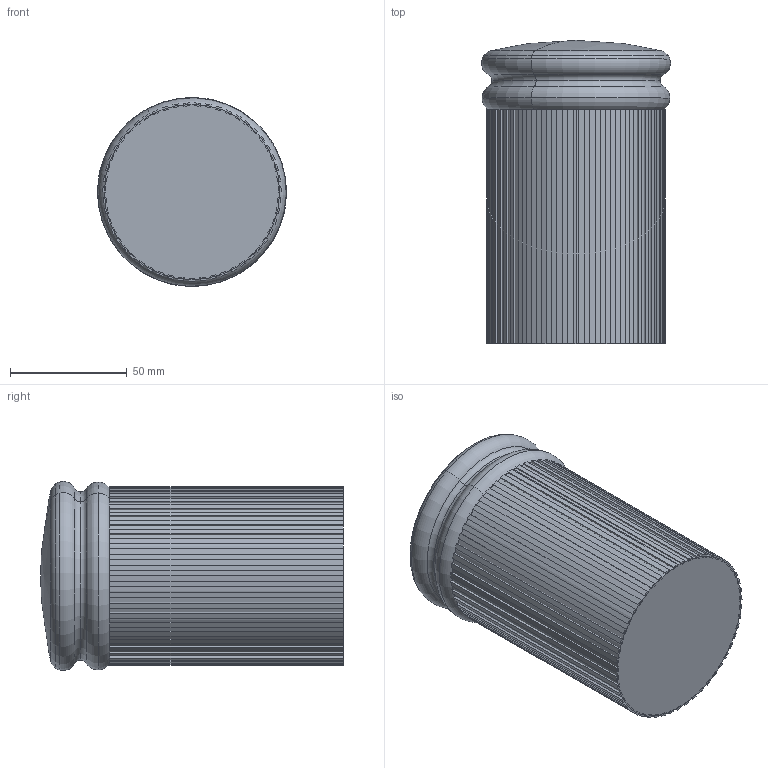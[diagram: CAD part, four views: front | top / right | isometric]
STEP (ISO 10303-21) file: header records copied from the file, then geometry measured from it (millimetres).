
FILE_DESCRIPTION (( 'STEP AP214' ), '1' );
FILE_NAME ('TUST_estriado.STEP', '2026-04-28T08:13:15', ( '' ), ( '' ), 'SwSTEP 2.0', 'SolidWorks 2023', '' );
FILE_SCHEMA (( 'AUTOMOTIVE_DESIGN' ));
Length unit declared in the file: millimetre
Products named in the file (3): TUST_cristal - copia; TUST_estriado; TUST_body
Assembly tree (2 placements, depth 2):
  TUST_estriado
    TUST_body
    TUST_cristal - copia
Bounding box: 80.96 x 129.66 x 80.96 mm (x, y, z)
Volume: 586010 mm3; surface area: 85546.5 mm2
Topology: 53 solids, 53 shells, 327 faces, 650 edges, 429 vertices
Faces by surface type: plane 309, torus 14, cylinder 2, sphere 2
Entity records: 8823 total; most frequent: CARTESIAN_POINT 1411, DIRECTION 1350, ORIENTED_EDGE 1300, EDGE_CURVE 650, LINE 614, VECTOR 614, VERTEX_POINT 429, AXIS2_PLACEMENT_3D 368
